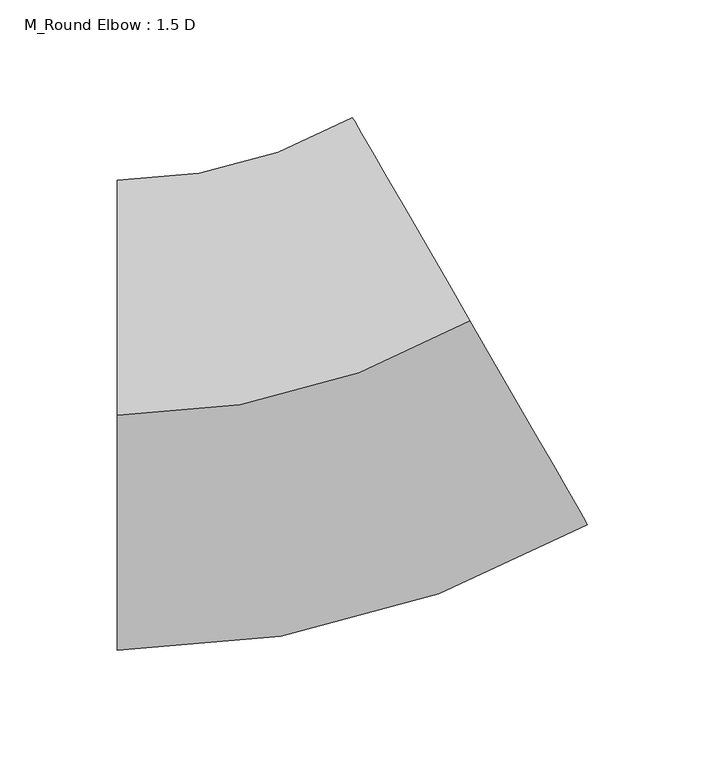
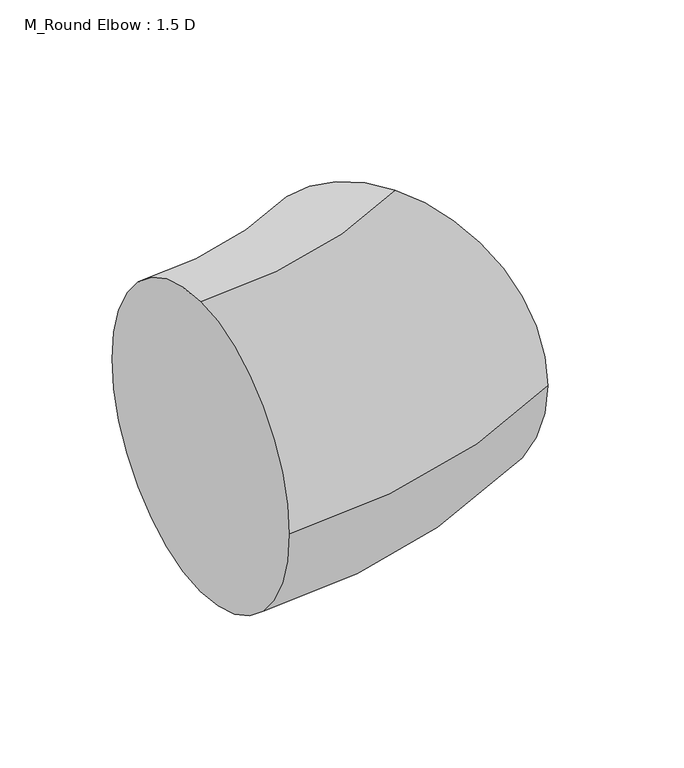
"""IFC4 building model written with IfcOpenShell, lengths in millimetres: duct fitting geometry, M_Round Elbow : 1.5 D."""

from ifc_helpers import new_model, si_unit, point, frame, origin, place, context, project, spatial, circle_curve, ellipse_curve, trimmed, source, transform, mapped, element, save
from ifc_brep_helpers import plane_surface, revolved_surface, advanced_brep


def m_round_elbow_1_5_d_a228ff82(model_context):
    return source(origin(), model_context, "Body", "AdvancedBrep", [
        advanced_brep(
        [(-80.3847577, 0.0, 100.0), (-80.3847577, 100.0, 0.0), (-80.3847577, 0.0, -100.0), (-80.3847577, -100.0, 0.0), (69.6152423, 40.1923789, 100.0), (119.6152423, -46.4101615, 0.0), (69.6152423, 40.1923789, -100.0), (19.6152423, 126.7949192, 0.0)],
        [
            (0, 1, circle_curve(frame((-80.3847577, 0.0, 0.0), z_axis=(-1.0, 0.0, 0.0), x_axis=(0.0, 1.0, 0.0)), 100.0)),
            (1, 2, circle_curve(frame((-80.3847577, 0.0, 0.0), z_axis=(-1.0, 0.0, 0.0), x_axis=(0.0, 1.0, 0.0)), 100.0)),
            (2, 3, circle_curve(frame((-80.3847577, 0.0, 0.0), z_axis=(-1.0, 0.0, 0.0), x_axis=(0.0, 1.0, 0.0)), 100.0)),
            (3, 0, circle_curve(frame((-80.3847577, 0.0, 0.0), z_axis=(-1.0, 0.0, 0.0), x_axis=(0.0, 1.0, 0.0)), 100.0)),
            (4, 5, circle_curve(frame((69.6152423, 40.1923789, 0.0), z_axis=(0.8660254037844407, 0.49999999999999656, 0.0), x_axis=(-0.49999999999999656, 0.8660254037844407, 0.0)), 100.0)),
            (5, 6, circle_curve(frame((69.6152423, 40.1923789, 0.0), z_axis=(0.8660254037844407, 0.49999999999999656, 0.0), x_axis=(-0.49999999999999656, 0.8660254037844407, 0.0)), 100.0)),
            (6, 7, circle_curve(frame((69.6152423, 40.1923789, 0.0), z_axis=(0.8660254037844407, 0.49999999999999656, 0.0), x_axis=(-0.49999999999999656, 0.8660254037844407, 0.0)), 100.0)),
            (7, 4, circle_curve(frame((69.6152423, 40.1923789, 0.0), z_axis=(0.8660254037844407, 0.49999999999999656, 0.0), x_axis=(-0.49999999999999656, 0.8660254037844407, 0.0)), 100.0)),
            (7, 1, circle_curve(frame((-80.3847577, 300.0, 0.0), z_axis=(0.0, 0.0, -1.0), x_axis=(0.0, -1.0, 0.0)), 200.0)),
            (0, 4, circle_curve(frame((-80.3847577, 300.0, 100.0), z_axis=(0.0, 0.0, 1.0), x_axis=(0.0, -1.0, 0.0)), 300.0)),
            (6, 2, circle_curve(frame((-80.3847577, 300.0, -100.0), z_axis=(0.0, 0.0, -1.0), x_axis=(0.0, -1.0, 0.0)), 300.0)),
            (5, 3, circle_curve(frame((-80.3847577, 300.0, 0.0), z_axis=(0.0, 0.0, -1.0), x_axis=(0.0, -1.0, 0.0)), 400.0)),
        ],
        [
            plane_surface(frame((-80.3847577, 0.0, 0.0), z_axis=(-1.0, 0.0, 0.0), x_axis=(0.0, 0.0, 1.0))),
            plane_surface(frame((69.6152423, 40.1923789, 0.0), z_axis=(0.8660254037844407, 0.49999999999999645, 0.0), x_axis=(0.0, 0.0, 1.0))),
            revolved_surface(trimmed(ellipse_curve(frame((-80.3847577, 0.0, 0.0), z_axis=(-1.0, 0.0, 0.0), x_axis=(0.0, 1.0, 0.0)), 100.0, 100.0), [point((-80.3847577, 0.0, 100.0))], [point((-80.3847577, 100.0, 0.0))], True, "CARTESIAN"), (-80.3847577, 300.0, 0.0), (0.0, 0.0, 1.0)),
            revolved_surface(trimmed(ellipse_curve(frame((-80.3847577, 0.0, 0.0), z_axis=(-1.0, 0.0, 0.0), x_axis=(0.0, 1.0, 0.0)), 100.0, 100.0), [point((-80.3847577, 100.0, 0.0))], [point((-80.3847577, 0.0, -100.0))], True, "CARTESIAN"), (-80.3847577, 300.0, 0.0), (0.0, 0.0, 1.0)),
            revolved_surface(trimmed(ellipse_curve(frame((-80.3847577, 0.0, 0.0), z_axis=(-1.0, 0.0, 0.0), x_axis=(0.0, 1.0, 0.0)), 100.0, 100.0), [point((-80.3847577, 0.0, -100.0))], [point((-80.3847577, -100.0, 0.0))], True, "CARTESIAN"), (-80.3847577, 300.0, 0.0), (0.0, 0.0, 1.0)),
            revolved_surface(trimmed(ellipse_curve(frame((-80.3847577, 0.0, 0.0), z_axis=(-1.0, 0.0, 0.0), x_axis=(0.0, 1.0, 0.0)), 100.0, 100.0), [point((-80.3847577, -100.0, 0.0))], [point((-80.3847577, 0.0, 100.0))], True, "CARTESIAN"), (-80.3847577, 300.0, 0.0), (0.0, 0.0, 1.0)),
        ],
        [
            (0, [[1, 2, 3, 4]]),
            (1, [[5, 6, 7, 8]]),
            (2, [[9, -1, 10, -8]]),
            (3, [[11, -2, -9, -7]]),
            (4, [[12, -3, -11, -6]]),
            (5, [[-10, -4, -12, -5]]),
        ],
    ),
        advanced_brep(
        [(-80.3847577, 0.0, 100.0), (-80.3847577, 100.0, 0.0), (-80.3847577, 0.0, -100.0), (-80.3847577, -100.0, 0.0), (69.6152423, 40.1923789, 100.0), (119.6152423, -46.4101615, 0.0), (69.6152423, 40.1923789, -100.0), (19.6152423, 126.7949192, 0.0)],
        [
            (0, 1, circle_curve(frame((-80.3847577, 0.0, 0.0), z_axis=(-1.0, 0.0, 0.0), x_axis=(0.0, 1.0, 0.0)), 100.0)),
            (1, 2, circle_curve(frame((-80.3847577, 0.0, 0.0), z_axis=(-1.0, 0.0, 0.0), x_axis=(0.0, 1.0, 0.0)), 100.0)),
            (2, 3, circle_curve(frame((-80.3847577, 0.0, 0.0), z_axis=(-1.0, 0.0, 0.0), x_axis=(0.0, 1.0, 0.0)), 100.0)),
            (3, 0, circle_curve(frame((-80.3847577, 0.0, 0.0), z_axis=(-1.0, 0.0, 0.0), x_axis=(0.0, 1.0, 0.0)), 100.0)),
            (4, 5, circle_curve(frame((69.6152423, 40.1923789, 0.0), z_axis=(0.8660254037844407, 0.49999999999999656, 0.0), x_axis=(-0.49999999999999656, 0.8660254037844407, 0.0)), 100.0)),
            (5, 6, circle_curve(frame((69.6152423, 40.1923789, 0.0), z_axis=(0.8660254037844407, 0.49999999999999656, 0.0), x_axis=(-0.49999999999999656, 0.8660254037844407, 0.0)), 100.0)),
            (6, 7, circle_curve(frame((69.6152423, 40.1923789, 0.0), z_axis=(0.8660254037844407, 0.49999999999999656, 0.0), x_axis=(-0.49999999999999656, 0.8660254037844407, 0.0)), 100.0)),
            (7, 4, circle_curve(frame((69.6152423, 40.1923789, 0.0), z_axis=(0.8660254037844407, 0.49999999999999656, 0.0), x_axis=(-0.49999999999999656, 0.8660254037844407, 0.0)), 100.0)),
            (7, 1, circle_curve(frame((-80.3847577, 300.0, 0.0), z_axis=(0.0, 0.0, -1.0), x_axis=(0.0, -1.0, 0.0)), 200.0)),
            (0, 4, circle_curve(frame((-80.3847577, 300.0, 100.0), z_axis=(0.0, 0.0, 1.0), x_axis=(0.0, -1.0, 0.0)), 300.0)),
            (6, 2, circle_curve(frame((-80.3847577, 300.0, -100.0), z_axis=(0.0, 0.0, -1.0), x_axis=(0.0, -1.0, 0.0)), 300.0)),
            (5, 3, circle_curve(frame((-80.3847577, 300.0, 0.0), z_axis=(0.0, 0.0, -1.0), x_axis=(0.0, -1.0, 0.0)), 400.0)),
        ],
        [
            plane_surface(frame((-80.3847577, 0.0, 0.0), z_axis=(-1.0, 0.0, 0.0), x_axis=(0.0, 0.0, 1.0))),
            plane_surface(frame((69.6152423, 40.1923789, 0.0), z_axis=(0.8660254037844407, 0.49999999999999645, 0.0), x_axis=(0.0, 0.0, 1.0))),
            revolved_surface(trimmed(ellipse_curve(frame((-80.3847577, 0.0, 0.0), z_axis=(-1.0, 0.0, 0.0), x_axis=(0.0, 1.0, 0.0)), 100.0, 100.0), [point((-80.3847577, 0.0, 100.0))], [point((-80.3847577, 100.0, 0.0))], True, "CARTESIAN"), (-80.3847577, 300.0, 0.0), (0.0, 0.0, 1.0)),
            revolved_surface(trimmed(ellipse_curve(frame((-80.3847577, 0.0, 0.0), z_axis=(-1.0, 0.0, 0.0), x_axis=(0.0, 1.0, 0.0)), 100.0, 100.0), [point((-80.3847577, 100.0, 0.0))], [point((-80.3847577, 0.0, -100.0))], True, "CARTESIAN"), (-80.3847577, 300.0, 0.0), (0.0, 0.0, 1.0)),
            revolved_surface(trimmed(ellipse_curve(frame((-80.3847577, 0.0, 0.0), z_axis=(-1.0, 0.0, 0.0), x_axis=(0.0, 1.0, 0.0)), 100.0, 100.0), [point((-80.3847577, 0.0, -100.0))], [point((-80.3847577, -100.0, 0.0))], True, "CARTESIAN"), (-80.3847577, 300.0, 0.0), (0.0, 0.0, 1.0)),
            revolved_surface(trimmed(ellipse_curve(frame((-80.3847577, 0.0, 0.0), z_axis=(-1.0, 0.0, 0.0), x_axis=(0.0, 1.0, 0.0)), 100.0, 100.0), [point((-80.3847577, -100.0, 0.0))], [point((-80.3847577, 0.0, 100.0))], True, "CARTESIAN"), (-80.3847577, 300.0, 0.0), (0.0, 0.0, 1.0)),
        ],
        [
            (0, [[1, 2, 3, 4]]),
            (1, [[5, 6, 7, 8]]),
            (2, [[9, -1, 10, -8]]),
            (3, [[11, -2, -9, -7]]),
            (4, [[12, -3, -11, -6]]),
            (5, [[-10, -4, -12, -5]]),
        ],
    ),
        advanced_brep(
        [(-80.3847577, 0.0, 100.0), (-80.3847577, 100.0, 0.0), (-80.3847577, 0.0, -100.0), (-80.3847577, -100.0, 0.0), (69.6152423, 40.1923789, 100.0), (119.6152423, -46.4101615, 0.0), (69.6152423, 40.1923789, -100.0), (19.6152423, 126.7949192, 0.0)],
        [
            (0, 1, circle_curve(frame((-80.3847577, 0.0, 0.0), z_axis=(-1.0, 0.0, 0.0), x_axis=(0.0, 1.0, 0.0)), 100.0)),
            (1, 2, circle_curve(frame((-80.3847577, 0.0, 0.0), z_axis=(-1.0, 0.0, 0.0), x_axis=(0.0, 1.0, 0.0)), 100.0)),
            (2, 3, circle_curve(frame((-80.3847577, 0.0, 0.0), z_axis=(-1.0, 0.0, 0.0), x_axis=(0.0, 1.0, 0.0)), 100.0)),
            (3, 0, circle_curve(frame((-80.3847577, 0.0, 0.0), z_axis=(-1.0, 0.0, 0.0), x_axis=(0.0, 1.0, 0.0)), 100.0)),
            (4, 5, circle_curve(frame((69.6152423, 40.1923789, 0.0), z_axis=(0.8660254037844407, 0.49999999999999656, 0.0), x_axis=(-0.49999999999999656, 0.8660254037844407, 0.0)), 100.0)),
            (5, 6, circle_curve(frame((69.6152423, 40.1923789, 0.0), z_axis=(0.8660254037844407, 0.49999999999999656, 0.0), x_axis=(-0.49999999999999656, 0.8660254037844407, 0.0)), 100.0)),
            (6, 7, circle_curve(frame((69.6152423, 40.1923789, 0.0), z_axis=(0.8660254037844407, 0.49999999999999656, 0.0), x_axis=(-0.49999999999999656, 0.8660254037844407, 0.0)), 100.0)),
            (7, 4, circle_curve(frame((69.6152423, 40.1923789, 0.0), z_axis=(0.8660254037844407, 0.49999999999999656, 0.0), x_axis=(-0.49999999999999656, 0.8660254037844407, 0.0)), 100.0)),
            (7, 1, circle_curve(frame((-80.3847577, 300.0, 0.0), z_axis=(0.0, 0.0, -1.0), x_axis=(0.0, -1.0, 0.0)), 200.0)),
            (0, 4, circle_curve(frame((-80.3847577, 300.0, 100.0), z_axis=(0.0, 0.0, 1.0), x_axis=(0.0, -1.0, 0.0)), 300.0)),
            (6, 2, circle_curve(frame((-80.3847577, 300.0, -100.0), z_axis=(0.0, 0.0, -1.0), x_axis=(0.0, -1.0, 0.0)), 300.0)),
            (5, 3, circle_curve(frame((-80.3847577, 300.0, 0.0), z_axis=(0.0, 0.0, -1.0), x_axis=(0.0, -1.0, 0.0)), 400.0)),
        ],
        [
            plane_surface(frame((-80.3847577, 0.0, 0.0), z_axis=(-1.0, 0.0, 0.0), x_axis=(0.0, 0.0, 1.0))),
            plane_surface(frame((69.6152423, 40.1923789, 0.0), z_axis=(0.8660254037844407, 0.49999999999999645, 0.0), x_axis=(0.0, 0.0, 1.0))),
            revolved_surface(trimmed(ellipse_curve(frame((-80.3847577, 0.0, 0.0), z_axis=(-1.0, 0.0, 0.0), x_axis=(0.0, 1.0, 0.0)), 100.0, 100.0), [point((-80.3847577, 0.0, 100.0))], [point((-80.3847577, 100.0, 0.0))], True, "CARTESIAN"), (-80.3847577, 300.0, 0.0), (0.0, 0.0, 1.0)),
            revolved_surface(trimmed(ellipse_curve(frame((-80.3847577, 0.0, 0.0), z_axis=(-1.0, 0.0, 0.0), x_axis=(0.0, 1.0, 0.0)), 100.0, 100.0), [point((-80.3847577, 100.0, 0.0))], [point((-80.3847577, 0.0, -100.0))], True, "CARTESIAN"), (-80.3847577, 300.0, 0.0), (0.0, 0.0, 1.0)),
            revolved_surface(trimmed(ellipse_curve(frame((-80.3847577, 0.0, 0.0), z_axis=(-1.0, 0.0, 0.0), x_axis=(0.0, 1.0, 0.0)), 100.0, 100.0), [point((-80.3847577, 0.0, -100.0))], [point((-80.3847577, -100.0, 0.0))], True, "CARTESIAN"), (-80.3847577, 300.0, 0.0), (0.0, 0.0, 1.0)),
            revolved_surface(trimmed(ellipse_curve(frame((-80.3847577, 0.0, 0.0), z_axis=(-1.0, 0.0, 0.0), x_axis=(0.0, 1.0, 0.0)), 100.0, 100.0), [point((-80.3847577, -100.0, 0.0))], [point((-80.3847577, 0.0, 100.0))], True, "CARTESIAN"), (-80.3847577, 300.0, 0.0), (0.0, 0.0, 1.0)),
        ],
        [
            (0, [[1, 2, 3, 4]]),
            (1, [[5, 6, 7, 8]]),
            (2, [[9, -1, 10, -8]]),
            (3, [[11, -2, -9, -7]]),
            (4, [[12, -3, -11, -6]]),
            (5, [[-10, -4, -12, -5]]),
        ],
    ),
    ])


if __name__ == "__main__":
    model = new_model("IFC4")
    model_context = context("Model", 3, world=origin())
    ifc_project = project(units=[si_unit("LENGTHUNIT", "METRE", prefix="MILLI")], contexts=[model_context])
    site = spatial("IfcSite", under=ifc_project)
    building = spatial("IfcBuilding", under=site)
    placement = place(None, origin())
    m_round_elbow_1_5_d_shape = m_round_elbow_1_5_d_a228ff82(model_context)
    element("IfcDuctFitting", 1, ObjectType="M_Round Elbow : 1.5 D", at=placement, inside=building, context=model_context, shape_type="MappedRepresentation", body=[
        mapped(m_round_elbow_1_5_d_shape, transform((0.0, 0.0, 0.0), x_axis=(1.0, 0.0, 0.0), y_axis=(0.0, 1.0, 0.0), z_axis=(0.0, 0.0, 1.0))),
    ])
    save(model, "model.ifc")
